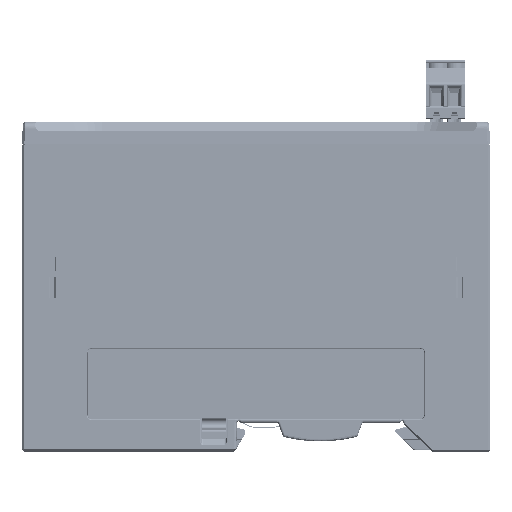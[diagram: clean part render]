
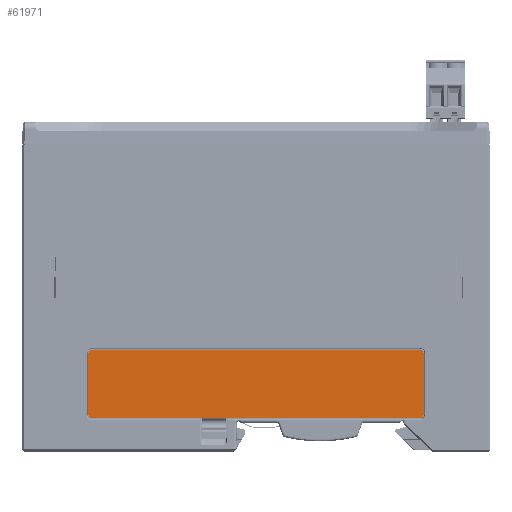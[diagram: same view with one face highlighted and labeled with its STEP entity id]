
A CAD part, left-side view. The second image highlights one B-rep face of the part: STEP entity #61971.
In plain terms, the highlighted planar face has unit normal (-1, 0, 0).
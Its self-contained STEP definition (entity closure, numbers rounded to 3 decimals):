
#2582 = EDGE_CURVE ( 'NONE', #301328, #294216, #74551, .T. ) ;
#7032 = CARTESIAN_POINT ( 'NONE',  ( -1., -35.8, 7.95 ) ) ;
#11541 = CARTESIAN_POINT ( 'NONE',  ( -1., -35., 7.95 ) ) ;
#15679 = VERTEX_POINT ( 'NONE', #316108 ) ;
#18726 = CIRCLE ( 'NONE', #152625, 0.8 ) ;
#21124 = CARTESIAN_POINT ( 'NONE',  ( -1., 0., 21.85 ) ) ;
#22597 = CARTESIAN_POINT ( 'NONE',  ( -1., -35., 21.05 ) ) ;
#25179 = EDGE_CURVE ( 'NONE', #294216, #279205, #321946, .T. ) ;
#28155 = ORIENTED_EDGE ( 'NONE', *, *, #2582, .T. ) ;
#37811 = DIRECTION ( 'NONE',  ( 0., 0., -1. ) ) ;
#46314 = AXIS2_PLACEMENT_3D ( 'NONE', #295804, #187332, #216908 ) ;
#48754 = DIRECTION ( 'NONE',  ( 0., 0., 1. ) ) ;
#49654 = DIRECTION ( 'NONE',  ( 0., 0., 1. ) ) ;
#50779 = EDGE_CURVE ( 'NONE', #279205, #106288, #260761, .T. ) ;
#53127 = EDGE_CURVE ( 'NONE', #168134, #256733, #256836, .T. ) ;
#58774 = LINE ( 'NONE', #21124, #250515 ) ;
#61662 = DIRECTION ( 'NONE',  ( 0., 0., -1. ) ) ;
#61971 = ADVANCED_FACE ( 'NONE', ( #282180 ), #228695, .T. ) ;
#69042 = VECTOR ( 'NONE', #48754, 1000. ) ;
#74551 = CIRCLE ( 'NONE', #150530, 0.8 ) ;
#76111 = ORIENTED_EDGE ( 'NONE', *, *, #53127, .T. ) ;
#76232 = DIRECTION ( 'NONE',  ( 0., 0., -1. ) ) ;
#83576 = AXIS2_PLACEMENT_3D ( 'NONE', #11541, #328603, #37811 ) ;
#89049 = CARTESIAN_POINT ( 'NONE',  ( -1., 35., 21.05 ) ) ;
#106164 = CARTESIAN_POINT ( 'NONE',  ( -1., 35.8, 0. ) ) ;
#106288 = VERTEX_POINT ( 'NONE', #109427 ) ;
#107659 = CARTESIAN_POINT ( 'NONE',  ( -1., 35.8, 7.95 ) ) ;
#107808 = DIRECTION ( 'NONE',  ( 0., -1., 0. ) ) ;
#109427 = CARTESIAN_POINT ( 'NONE',  ( -1., 35., 7.15 ) ) ;
#138473 = EDGE_CURVE ( 'NONE', #174678, #168134, #314616, .T. ) ;
#141349 = DIRECTION ( 'NONE',  ( 0., 0., -1. ) ) ;
#150259 = ORIENTED_EDGE ( 'NONE', *, *, #25179, .T. ) ;
#150530 = AXIS2_PLACEMENT_3D ( 'NONE', #89049, #192779, #61662 ) ;
#152625 = AXIS2_PLACEMENT_3D ( 'NONE', #22597, #281621, #76232 ) ;
#157025 = VECTOR ( 'NONE', #107808, 1000. ) ;
#157100 = CARTESIAN_POINT ( 'NONE',  ( -1., -35., 7.15 ) ) ;
#162719 = EDGE_LOOP ( 'NONE', ( #223819, #28155, #150259, #333620, #268642, #280907, #76111, #282659 ) ) ;
#166379 = EDGE_CURVE ( 'NONE', #106288, #174678, #234575, .T. ) ;
#168134 = VERTEX_POINT ( 'NONE', #7032 ) ;
#174678 = VERTEX_POINT ( 'NONE', #157100 ) ;
#179623 = DIRECTION ( 'NONE',  ( -1., 0., 0. ) ) ;
#187332 = DIRECTION ( 'NONE',  ( -1., 0., 0. ) ) ;
#192779 = DIRECTION ( 'NONE',  ( -1., 0., 0. ) ) ;
#195720 = CARTESIAN_POINT ( 'NONE',  ( -1., 35., 21.85 ) ) ;
#203600 = CARTESIAN_POINT ( 'NONE',  ( -1., 0., 0. ) ) ;
#216908 = DIRECTION ( 'NONE',  ( 0., 0., -1. ) ) ;
#223819 = ORIENTED_EDGE ( 'NONE', *, *, #280514, .T. ) ;
#228695 = PLANE ( 'NONE',  #322713 ) ;
#230016 = CARTESIAN_POINT ( 'NONE',  ( -1., -35.8, 0. ) ) ;
#230918 = DIRECTION ( 'NONE',  ( 0., 1., 0. ) ) ;
#234575 = LINE ( 'NONE', #238919, #157025 ) ;
#238919 = CARTESIAN_POINT ( 'NONE',  ( -1., 0., 7.15 ) ) ;
#249926 = CARTESIAN_POINT ( 'NONE',  ( -1., -35.8, 21.05 ) ) ;
#250515 = VECTOR ( 'NONE', #230918, 1000. ) ;
#256733 = VERTEX_POINT ( 'NONE', #249926 ) ;
#256836 = LINE ( 'NONE', #230016, #69042 ) ;
#260761 = CIRCLE ( 'NONE', #46314, 0.8 ) ;
#264594 = VECTOR ( 'NONE', #141349, 1000. ) ;
#268642 = ORIENTED_EDGE ( 'NONE', *, *, #166379, .T. ) ;
#273637 = CARTESIAN_POINT ( 'NONE',  ( -1., 35.8, 21.05 ) ) ;
#279205 = VERTEX_POINT ( 'NONE', #107659 ) ;
#280514 = EDGE_CURVE ( 'NONE', #15679, #301328, #58774, .T. ) ;
#280907 = ORIENTED_EDGE ( 'NONE', *, *, #138473, .T. ) ;
#281621 = DIRECTION ( 'NONE',  ( -1., 0., 0. ) ) ;
#282180 = FACE_OUTER_BOUND ( 'NONE', #162719, .T. ) ;
#282659 = ORIENTED_EDGE ( 'NONE', *, *, #328554, .T. ) ;
#294216 = VERTEX_POINT ( 'NONE', #273637 ) ;
#295804 = CARTESIAN_POINT ( 'NONE',  ( -1., 35., 7.95 ) ) ;
#301328 = VERTEX_POINT ( 'NONE', #195720 ) ;
#314616 = CIRCLE ( 'NONE', #83576, 0.8 ) ;
#316108 = CARTESIAN_POINT ( 'NONE',  ( -1., -35., 21.85 ) ) ;
#321946 = LINE ( 'NONE', #106164, #264594 ) ;
#322713 = AXIS2_PLACEMENT_3D ( 'NONE', #203600, #179623, #49654 ) ;
#328554 = EDGE_CURVE ( 'NONE', #256733, #15679, #18726, .T. ) ;
#328603 = DIRECTION ( 'NONE',  ( -1., 0., 0. ) ) ;
#333620 = ORIENTED_EDGE ( 'NONE', *, *, #50779, .T. ) ;
